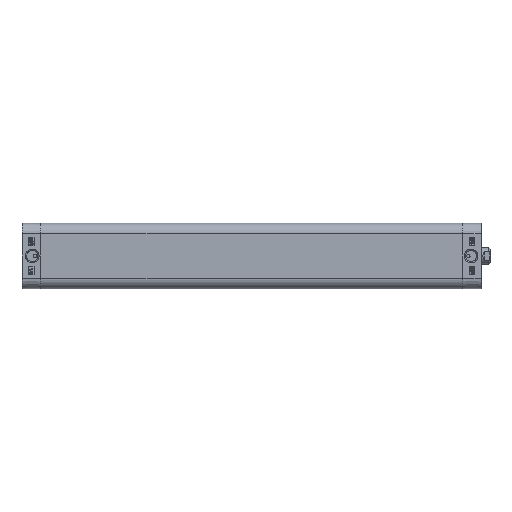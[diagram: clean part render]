
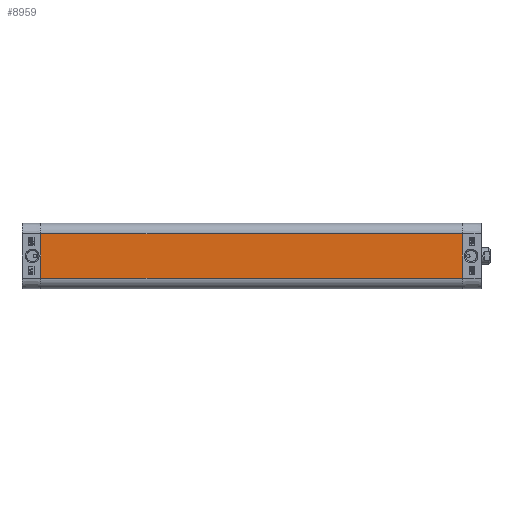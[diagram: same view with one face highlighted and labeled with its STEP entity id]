
A CAD part, left-side view. The second image highlights one B-rep face of the part: STEP entity #8959.
In plain terms, the highlighted planar face has unit normal (-1, 0, 0).
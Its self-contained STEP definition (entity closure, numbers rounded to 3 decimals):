
#5939=CARTESIAN_POINT('',(-24.5,-315.5,16.5));
#5940=VERTEX_POINT('',#5939);
#5947=CARTESIAN_POINT('',(-24.5,-315.5,-16.5));
#5948=VERTEX_POINT('',#5947);
#5949=CARTESIAN_POINT('',(-24.5,-315.5,-16.5));
#5950=DIRECTION('',(0.0,0.0,1.0));
#5951=VECTOR('',#5950,33.0);
#5952=LINE('',#5949,#5951);
#5953=EDGE_CURVE('',#5948,#5940,#5952,.T.);
#8917=CARTESIAN_POINT('',(-24.5,0.0,-16.5));
#8918=VERTEX_POINT('',#8917);
#8919=CARTESIAN_POINT('',(-24.5,0.0,-16.5));
#8920=DIRECTION('',(0.0,-1.0,0.0));
#8921=VECTOR('',#8920,315.5);
#8922=LINE('',#8919,#8921);
#8923=EDGE_CURVE('',#8918,#5948,#8922,.T.);
#8936=CARTESIAN_POINT('',(-24.5,0.0,-16.5));
#8937=DIRECTION('',(-1.0,0.0,0.0));
#8938=DIRECTION('',(0.0,0.0,1.0));
#8939=AXIS2_PLACEMENT_3D('',#8936,#8937,#8938);
#8940=PLANE('',#8939);
#8941=ORIENTED_EDGE('',*,*,#5953,.T.);
#8942=CARTESIAN_POINT('',(-24.5,0.0,16.5));
#8943=VERTEX_POINT('',#8942);
#8944=CARTESIAN_POINT('',(-24.5,0.0,16.5));
#8945=DIRECTION('',(0.0,-1.0,0.0));
#8946=VECTOR('',#8945,315.5);
#8947=LINE('',#8944,#8946);
#8948=EDGE_CURVE('',#8943,#5940,#8947,.T.);
#8949=ORIENTED_EDGE('',*,*,#8948,.F.);
#8950=CARTESIAN_POINT('',(-24.5,0.0,-16.5));
#8951=DIRECTION('',(0.0,0.0,1.0));
#8952=VECTOR('',#8951,33.0);
#8953=LINE('',#8950,#8952);
#8954=EDGE_CURVE('',#8918,#8943,#8953,.T.);
#8955=ORIENTED_EDGE('',*,*,#8954,.F.);
#8956=ORIENTED_EDGE('',*,*,#8923,.T.);
#8957=EDGE_LOOP('',(#8941,#8949,#8955,#8956));
#8958=FACE_OUTER_BOUND('',#8957,.T.);
#8959=ADVANCED_FACE('',(#8958),#8940,.T.);
